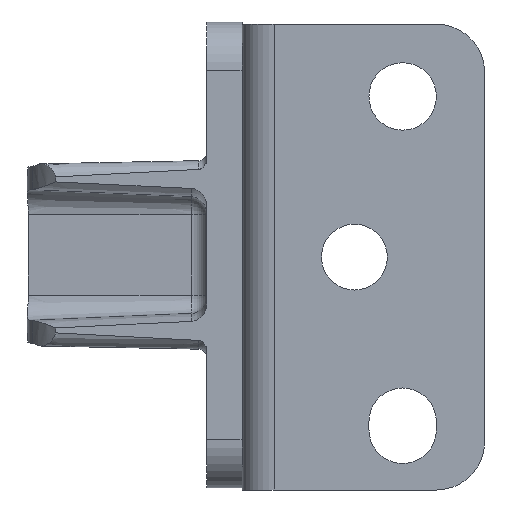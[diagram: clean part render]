
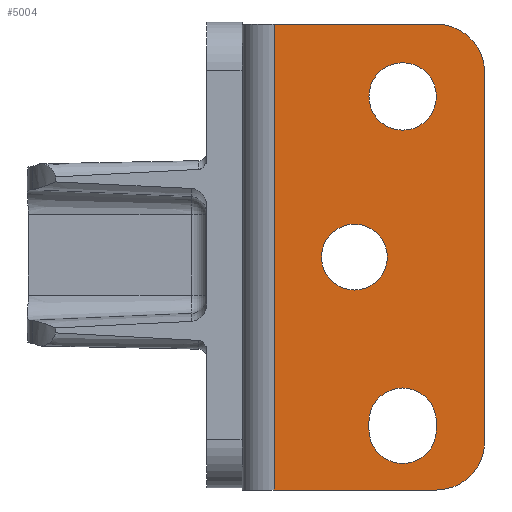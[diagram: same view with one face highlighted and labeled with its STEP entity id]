
A CAD part, front view. The second image highlights one B-rep face of the part: STEP entity #5004.
In plain terms, the highlighted planar face has unit normal (0, -1, 0).
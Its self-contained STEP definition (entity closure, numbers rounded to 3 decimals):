
#129 = VERTEX_POINT ( 'NONE', #6112 ) ;
#158 = VERTEX_POINT ( 'NONE', #10406 ) ;
#187 = CARTESIAN_POINT ( 'NONE',  ( 3.896, -5.145, 801.981 ) ) ;
#429 = AXIS2_PLACEMENT_3D ( 'NONE', #4064, #13753, #2576 ) ;
#601 = CIRCLE ( 'NONE', #12499, 2.1 ) ;
#697 = VECTOR ( 'NONE', #9984, 1000. ) ;
#794 = AXIS2_PLACEMENT_3D ( 'NONE', #15287, #11084, #13977 ) ;
#961 = CARTESIAN_POINT ( 'NONE',  ( -6.204, -5.145, 830.981 ) ) ;
#1183 = VERTEX_POINT ( 'NONE', #3879 ) ;
#1776 = CIRCLE ( 'NONE', #12174, 2.1 ) ;
#1917 = EDGE_CURVE ( 'NONE', #11101, #158, #601, .T. ) ;
#2088 = ORIENTED_EDGE ( 'NONE', *, *, #4218, .T. ) ;
#2154 = DIRECTION ( 'NONE',  ( 0., 1., 0. ) ) ;
#2274 = VECTOR ( 'NONE', #6642, 1000. ) ;
#2357 = ORIENTED_EDGE ( 'NONE', *, *, #7754, .F. ) ;
#2494 = DIRECTION ( 'NONE',  ( 0., -1., 0. ) ) ;
#2529 = VERTEX_POINT ( 'NONE', #961 ) ;
#2576 = DIRECTION ( 'NONE',  ( 1., 0., 0. ) ) ;
#2783 = AXIS2_PLACEMENT_3D ( 'NONE', #6378, #9360, #14772 ) ;
#2973 = CARTESIAN_POINT ( 'NONE',  ( 11.796, -5.145, 830.981 ) ) ;
#3063 = DIRECTION ( 'NONE',  ( 0., 1., 0. ) ) ;
#3089 = EDGE_CURVE ( 'NONE', #17030, #4289, #1776, .T. ) ;
#3315 = ORIENTED_EDGE ( 'NONE', *, *, #13543, .T. ) ;
#3402 = EDGE_CURVE ( 'NONE', #1183, #129, #17361, .T. ) ;
#3622 = DIRECTION ( 'NONE',  ( 0., 0., 1. ) ) ;
#3830 = CARTESIAN_POINT ( 'NONE',  ( -6.204, -5.145, 801.981 ) ) ;
#3879 = CARTESIAN_POINT ( 'NONE',  ( -0.304, -5.145, 806.231 ) ) ;
#4064 = CARTESIAN_POINT ( 'NONE',  ( 1.796, -5.145, 806.231 ) ) ;
#4218 = EDGE_CURVE ( 'NONE', #10306, #15037, #13996, .T. ) ;
#4289 = VERTEX_POINT ( 'NONE', #9709 ) ;
#4654 = EDGE_CURVE ( 'NONE', #8642, #7580, #11565, .T. ) ;
#4674 = CARTESIAN_POINT ( 'NONE',  ( 0.846, -5.145, 816.481 ) ) ;
#4790 = ORIENTED_EDGE ( 'NONE', *, *, #10617, .T. ) ;
#4831 = DIRECTION ( 'NONE',  ( 0., 1., 0. ) ) ;
#4943 = VECTOR ( 'NONE', #11733, 1000. ) ;
#4954 = CARTESIAN_POINT ( 'NONE',  ( 1.796, -5.145, 805.731 ) ) ;
#5004 = ADVANCED_FACE ( 'NONE', ( #6565, #17580, #12238, #16355 ), #12057, .F. ) ;
#5425 = DIRECTION ( 'NONE',  ( 1., 0., 0. ) ) ;
#5465 = CIRCLE ( 'NONE', #14394, 3. ) ;
#6016 = VERTEX_POINT ( 'NONE', #9873 ) ;
#6074 = VECTOR ( 'NONE', #17909, 1000. ) ;
#6112 = CARTESIAN_POINT ( 'NONE',  ( 3.896, -5.145, 806.231 ) ) ;
#6132 = EDGE_CURVE ( 'NONE', #13479, #14472, #11430, .T. ) ;
#6378 = CARTESIAN_POINT ( 'NONE',  ( 11.796, -5.145, 801.981 ) ) ;
#6522 = ORIENTED_EDGE ( 'NONE', *, *, #1917, .T. ) ;
#6565 = FACE_BOUND ( 'NONE', #7841, .T. ) ;
#6642 = DIRECTION ( 'NONE',  ( 0., 0., 1. ) ) ;
#6964 = EDGE_LOOP ( 'NONE', ( #11130, #6522, #3315, #8463 ) ) ;
#7016 = CARTESIAN_POINT ( 'NONE',  ( 11.796, -5.145, 801.981 ) ) ;
#7267 = LINE ( 'NONE', #2973, #12303 ) ;
#7580 = VERTEX_POINT ( 'NONE', #11921 ) ;
#7754 = EDGE_CURVE ( 'NONE', #7580, #2529, #11205, .T. ) ;
#7841 = EDGE_LOOP ( 'NONE', ( #13691, #15703 ) ) ;
#7968 = EDGE_CURVE ( 'NONE', #8642, #10306, #9144, .T. ) ;
#8015 = CARTESIAN_POINT ( 'NONE',  ( -0.304, -5.145, 801.981 ) ) ;
#8206 = CARTESIAN_POINT ( 'NONE',  ( -3.254, -5.145, 816.481 ) ) ;
#8463 = ORIENTED_EDGE ( 'NONE', *, *, #3402, .T. ) ;
#8642 = VERTEX_POINT ( 'NONE', #10382 ) ;
#8891 = DIRECTION ( 'NONE',  ( 1., 0., 0. ) ) ;
#9135 = CARTESIAN_POINT ( 'NONE',  ( 1.796, -5.145, 826.481 ) ) ;
#9144 = CIRCLE ( 'NONE', #794, 3. ) ;
#9360 = DIRECTION ( 'NONE',  ( 0., 1., 0. ) ) ;
#9482 = CARTESIAN_POINT ( 'NONE',  ( 3.896, -5.145, 827.981 ) ) ;
#9709 = CARTESIAN_POINT ( 'NONE',  ( 3.896, -5.145, 826.481 ) ) ;
#9873 = CARTESIAN_POINT ( 'NONE',  ( 3.896, -5.145, 830.981 ) ) ;
#9970 = CARTESIAN_POINT ( 'NONE',  ( -1.204, -5.145, 816.481 ) ) ;
#9984 = DIRECTION ( 'NONE',  ( -1., 0., 0. ) ) ;
#10289 = CIRCLE ( 'NONE', #13867, 2.1 ) ;
#10306 = VERTEX_POINT ( 'NONE', #10822 ) ;
#10382 = CARTESIAN_POINT ( 'NONE',  ( 3.896, -5.145, 801.981 ) ) ;
#10406 = CARTESIAN_POINT ( 'NONE',  ( -0.304, -5.145, 805.731 ) ) ;
#10617 = EDGE_CURVE ( 'NONE', #15037, #6016, #5465, .T. ) ;
#10822 = CARTESIAN_POINT ( 'NONE',  ( 6.896, -5.145, 804.981 ) ) ;
#10932 = CARTESIAN_POINT ( 'NONE',  ( -1.204, -5.145, 816.481 ) ) ;
#11006 = CARTESIAN_POINT ( 'NONE',  ( 1.796, -5.145, 826.481 ) ) ;
#11084 = DIRECTION ( 'NONE',  ( 0., -1., 0. ) ) ;
#11101 = VERTEX_POINT ( 'NONE', #11872 ) ;
#11113 = AXIS2_PLACEMENT_3D ( 'NONE', #10932, #17001, #5425 ) ;
#11130 = ORIENTED_EDGE ( 'NONE', *, *, #13705, .T. ) ;
#11205 = LINE ( 'NONE', #3830, #2274 ) ;
#11249 = EDGE_CURVE ( 'NONE', #14472, #13479, #13834, .T. ) ;
#11359 = DIRECTION ( 'NONE',  ( 1., 0., 0. ) ) ;
#11430 = CIRCLE ( 'NONE', #15906, 2.05 ) ;
#11431 = ORIENTED_EDGE ( 'NONE', *, *, #15845, .T. ) ;
#11565 = LINE ( 'NONE', #7016, #697 ) ;
#11636 = EDGE_CURVE ( 'NONE', #6016, #2529, #7267, .T. ) ;
#11733 = DIRECTION ( 'NONE',  ( 0., 0., -1. ) ) ;
#11872 = CARTESIAN_POINT ( 'NONE',  ( 3.896, -5.145, 805.731 ) ) ;
#11921 = CARTESIAN_POINT ( 'NONE',  ( -6.204, -5.145, 801.981 ) ) ;
#12057 = PLANE ( 'NONE',  #2783 ) ;
#12174 = AXIS2_PLACEMENT_3D ( 'NONE', #11006, #2154, #18179 ) ;
#12215 = CARTESIAN_POINT ( 'NONE',  ( 6.896, -5.145, 799.12 ) ) ;
#12238 = FACE_BOUND ( 'NONE', #16169, .T. ) ;
#12303 = VECTOR ( 'NONE', #14341, 1000. ) ;
#12499 = AXIS2_PLACEMENT_3D ( 'NONE', #4954, #16335, #8891 ) ;
#12712 = ORIENTED_EDGE ( 'NONE', *, *, #7968, .T. ) ;
#12951 = LINE ( 'NONE', #187, #4943 ) ;
#13479 = VERTEX_POINT ( 'NONE', #8206 ) ;
#13543 = EDGE_CURVE ( 'NONE', #158, #1183, #14913, .T. ) ;
#13677 = DIRECTION ( 'NONE',  ( 1., 0., 0. ) ) ;
#13691 = ORIENTED_EDGE ( 'NONE', *, *, #11249, .T. ) ;
#13705 = EDGE_CURVE ( 'NONE', #129, #11101, #12951, .T. ) ;
#13753 = DIRECTION ( 'NONE',  ( 0., 1., 0. ) ) ;
#13834 = CIRCLE ( 'NONE', #11113, 2.05 ) ;
#13867 = AXIS2_PLACEMENT_3D ( 'NONE', #9135, #4831, #14723 ) ;
#13882 = VECTOR ( 'NONE', #3622, 1000. ) ;
#13977 = DIRECTION ( 'NONE',  ( 1., 0., 0. ) ) ;
#13996 = LINE ( 'NONE', #12215, #6074 ) ;
#14176 = EDGE_LOOP ( 'NONE', ( #2088, #4790, #14763, #2357, #15418, #12712 ) ) ;
#14341 = DIRECTION ( 'NONE',  ( -1., 0., 0. ) ) ;
#14394 = AXIS2_PLACEMENT_3D ( 'NONE', #9482, #2494, #13677 ) ;
#14472 = VERTEX_POINT ( 'NONE', #4674 ) ;
#14548 = CARTESIAN_POINT ( 'NONE',  ( -0.304, -5.145, 826.481 ) ) ;
#14723 = DIRECTION ( 'NONE',  ( 1., 0., 0. ) ) ;
#14763 = ORIENTED_EDGE ( 'NONE', *, *, #11636, .T. ) ;
#14772 = DIRECTION ( 'NONE',  ( 1., 0., 0. ) ) ;
#14913 = LINE ( 'NONE', #8015, #13882 ) ;
#15037 = VERTEX_POINT ( 'NONE', #15917 ) ;
#15287 = CARTESIAN_POINT ( 'NONE',  ( 3.896, -5.145, 804.981 ) ) ;
#15418 = ORIENTED_EDGE ( 'NONE', *, *, #4654, .F. ) ;
#15703 = ORIENTED_EDGE ( 'NONE', *, *, #6132, .T. ) ;
#15845 = EDGE_CURVE ( 'NONE', #4289, #17030, #10289, .T. ) ;
#15906 = AXIS2_PLACEMENT_3D ( 'NONE', #9970, #3063, #11359 ) ;
#15917 = CARTESIAN_POINT ( 'NONE',  ( 6.896, -5.145, 827.981 ) ) ;
#16169 = EDGE_LOOP ( 'NONE', ( #11431, #17838 ) ) ;
#16335 = DIRECTION ( 'NONE',  ( 0., 1., 0. ) ) ;
#16355 = FACE_OUTER_BOUND ( 'NONE', #14176, .T. ) ;
#17001 = DIRECTION ( 'NONE',  ( 0., 1., 0. ) ) ;
#17030 = VERTEX_POINT ( 'NONE', #14548 ) ;
#17361 = CIRCLE ( 'NONE', #429, 2.1 ) ;
#17580 = FACE_BOUND ( 'NONE', #6964, .T. ) ;
#17838 = ORIENTED_EDGE ( 'NONE', *, *, #3089, .T. ) ;
#17909 = DIRECTION ( 'NONE',  ( 0., 0., 1. ) ) ;
#18179 = DIRECTION ( 'NONE',  ( 1., 0., 0. ) ) ;
